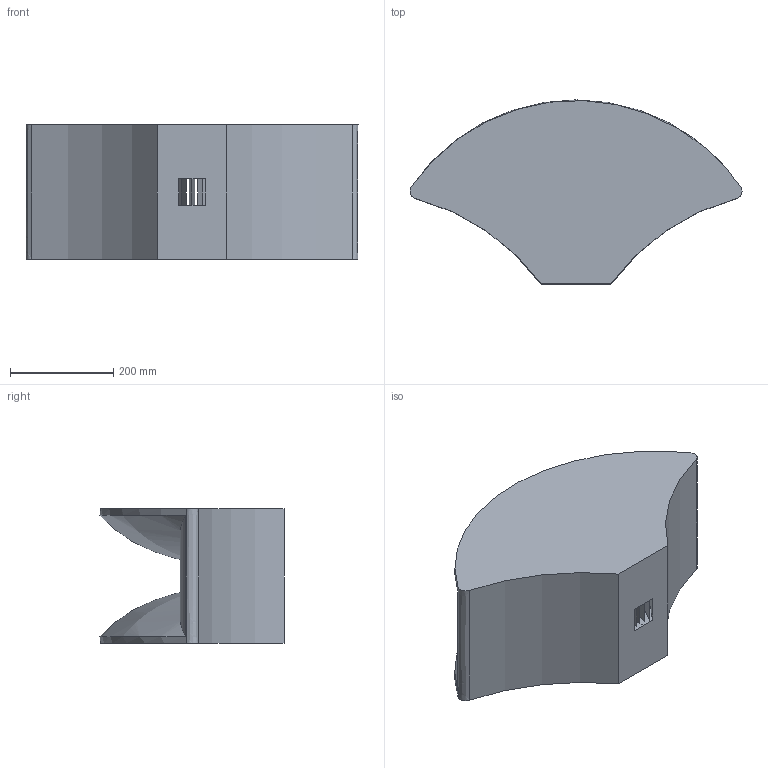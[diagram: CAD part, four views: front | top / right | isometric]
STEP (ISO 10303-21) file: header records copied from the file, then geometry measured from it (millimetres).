
FILE_DESCRIPTION(/* description */ (''),/* implementation_level */ '2;1');
FILE_NAME(/* name */ 'mk3b2_a2.step',/* time_stamp */ '2023-04-08T13:27:24+02:00',/* author */ (''),/* organization */ (''),/* preprocessor_version */ 'ST-DEVELOPER v19.2',/* originating_system */ 'Autodesk Translation Framework v12.4.0.73',/* authorisation */ '');
FILE_SCHEMA (('AUTOMOTIVE_DESIGN { 1 0 10303 214 3 1 1 }'));
Length unit declared in the file: millimetre
Products named in the file (1): (Unsaved)
Bounding box: 641.9 x 355.75 x 260 mm (x, y, z)
Volume: 24650786.2 mm3; surface area: 923864.2 mm2
Topology: 6 solids, 6 shells, 38 faces, 74 edges, 48 vertices
Faces by surface type: bspline 33, plane 3, cylinder 2
Entity records: 25424 total; most frequent: CARTESIAN_POINT 24780, ORIENTED_EDGE 148, EDGE_CURVE 74, VERTEX_POINT 48, DIRECTION 48, B_SPLINE_CURVE_WITH_KNOTS 46, EDGE_LOOP 40, FACE_OUTER_BOUND 38
